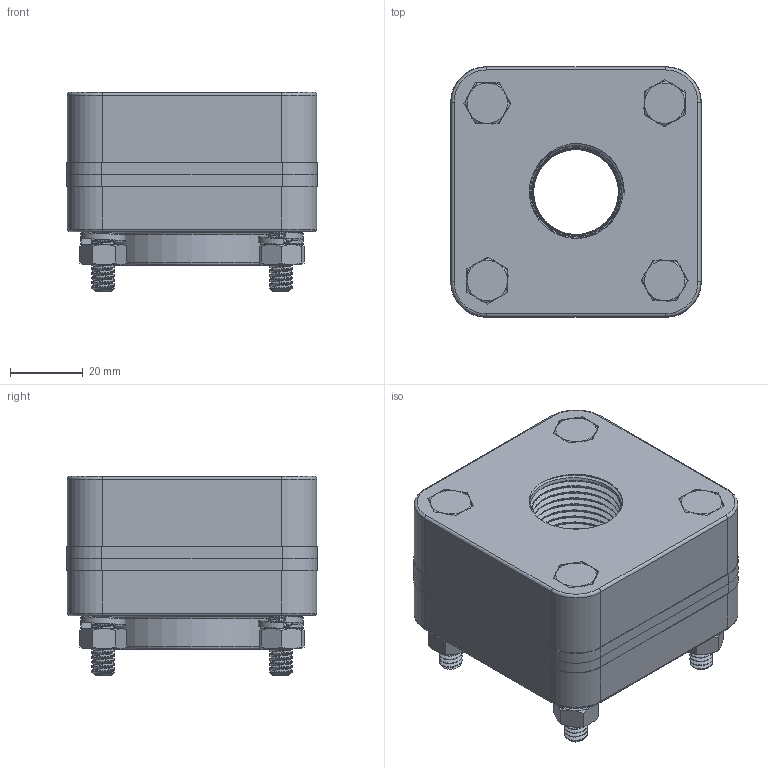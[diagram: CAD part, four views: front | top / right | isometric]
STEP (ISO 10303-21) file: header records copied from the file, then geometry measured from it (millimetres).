
FILE_DESCRIPTION(/* description */ ('Alibre Inc.'),/* implementation_level */ '2;1');
FILE_NAME(/* name */ 'export0',/* time_stamp */ '2017-09-07T10:00:59-04:00',/* author */ (''),/* organization */ (''),/* preprocessor_version */ 'ST-DEVELOPER v14',/* originating_system */ 'Alibre',/* authorisation */ '');
FILE_SCHEMA (('CONFIG_CONTROL_DESIGN'));
Length unit declared in the file: inch
Products named in the file (7): ID_1; ID_2; ID_3; ID_4
Bounding box: 68.83 x 68.83 x 54.77 mm (x, y, z)
Volume: 173255.9 mm3; surface area: 61184.3 mm2
Topology: 16 solids, 16 shells, 590 faces, 1523 edges, 975 vertices
Faces by surface type: cylinder 223, cone 192, plane 130, bspline 35, torus 10
Full cylindrical faces by diameter (mm): 4.115 x8, 6.858 x8, 30.226 x2, 48.514 x1
Entity records: 76454 total; most frequent: CARTESIAN_POINT 69316, ORIENTED_EDGE 1430, DIRECTION 1046, EDGE_CURVE 715, VERTEX_POINT 472, AXIS2_PLACEMENT_3D 432, EDGE_LOOP 333, FACE_BOUND 333
